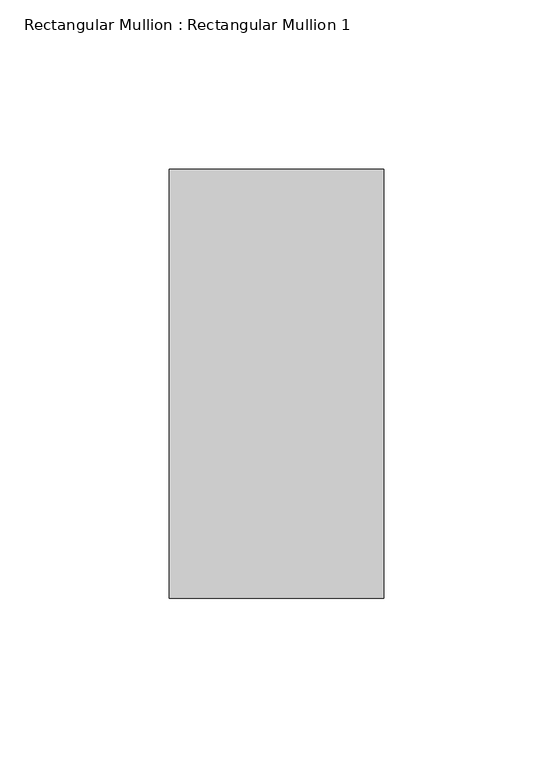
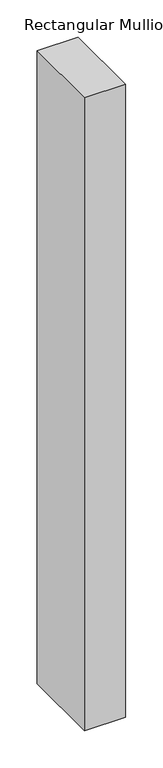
"""IFC4 building model written with IfcOpenShell, lengths in millimetres: member geometry, Rectangular Mullion : Rectangular Mullion 1."""

from ifc_helpers import new_model, si_unit, frame, origin, place, context, project, spatial, polyline, outline, extrude, source, transform, mapped, element, save


def rectangular_mullion_rectangular_mullion_1_1e05b418(model_context):
    return source(origin(), model_context, "Body", "SweptSolid", [
        extrude(outline(polyline([(0.0, 63.5), (0.0, -63.5), (-63.5, -63.5), (-63.5, 63.5), (0.0, 63.5)])), frame((0.0, 0.0, -1035.0499999), z_axis=(0.0, 0.0, 1.0), x_axis=(1.0, 0.0, 0.0)), (0.0, 0.0, 1.0), 1035.0499999),
    ])


if __name__ == "__main__":
    model = new_model("IFC4")
    model_context = context("Model", 3, world=origin())
    ifc_project = project(units=[si_unit("LENGTHUNIT", "METRE", prefix="MILLI")], contexts=[model_context])
    site = spatial("IfcSite", under=ifc_project)
    building = spatial("IfcBuilding", under=site)
    placement = place(None, origin())
    rectangular_mullion_rectangular_mullion_1_shape = rectangular_mullion_rectangular_mullion_1_1e05b418(model_context)
    element("IfcMember", 1, ObjectType="Rectangular Mullion : Rectangular Mullion 1", at=placement, inside=building, context=model_context, shape_type="MappedRepresentation", body=[
        mapped(rectangular_mullion_rectangular_mullion_1_shape, transform((0.0, 0.0, 0.0), x_axis=(1.0, 0.0, 0.0), y_axis=(0.0, 1.0, 0.0), z_axis=(0.0, 0.0, 1.0))),
    ])
    save(model, "model.ifc")
